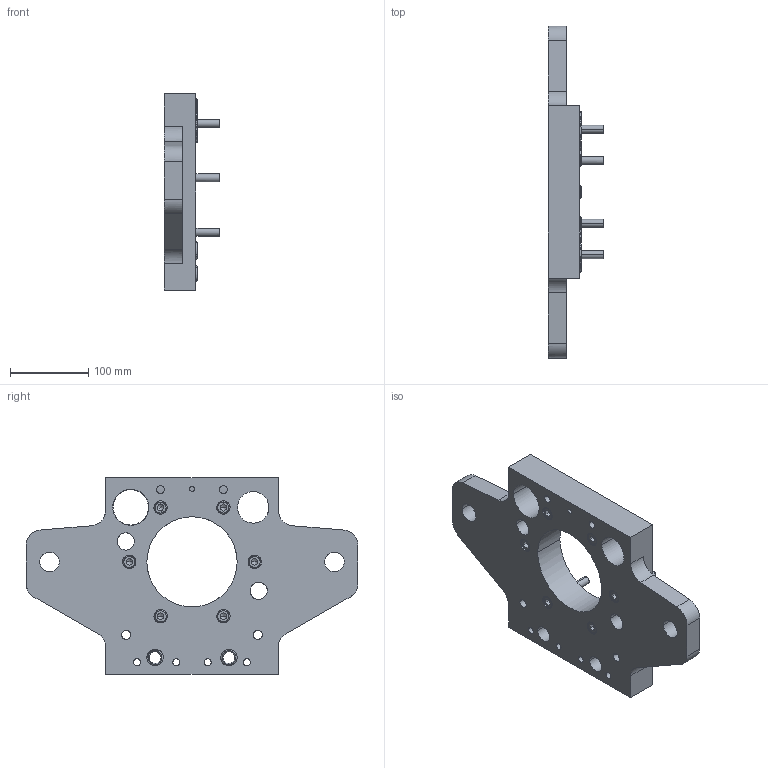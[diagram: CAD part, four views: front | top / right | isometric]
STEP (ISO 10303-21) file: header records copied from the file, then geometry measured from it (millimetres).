
FILE_DESCRIPTION(/* description */ (''),/* implementation_level */ '2;1');
FILE_NAME(/* name */ 'female',/* time_stamp */ '2024-03-22T16:27:08+01:00',/* author */ (''),/* organization */ (''),/* preprocessor_version */ 'ST-DEVELOPER v16.5',/* originating_system */ 'Rhino 7.36',/* authorisation */ '');
FILE_SCHEMA (('AUTOMOTIVE_DESIGN'));
Length unit declared in the file: millimetre
Products named in the file (7): Document; GIUNTO RAPIDO_01; VTCEI-M10x60-ISO4762-8.8-G; or_11_0x2_5-n70; or_18_0x2_5-n70; or_15_0x2_5-n70; or_45_0x2_5-n70
Assembly tree (16 placements, depth 2):
  Document
    GIUNTO RAPIDO_01
    VTCEI-M10x60-ISO4762-8.8-G  x6
    or_11_0x2_5-n70  x3
    or_18_0x2_5-n70  x2
    or_15_0x2_5-n70  x2
    or_45_0x2_5-n70  x2
Bounding box: 71 x 423.14 x 250 mm (x, y, z)
Volume: 2090897.1 mm3; surface area: 249356.8 mm2
Topology: 11 solids, 25 shells, 259 faces, 691 edges, 427 vertices
Faces by surface type: cylinder 100, bspline 85, plane 74
Entity records: 5873 total; most frequent: CARTESIAN_POINT 2606, ORIENTED_EDGE 666, EDGE_CURVE 340, VERTEX_POINT 223, EDGE_LOOP 184, DIRECTION 167, AXIS2_PLACEMENT_3D 135, B_SPLINE_CURVE_WITH_KNOTS 130
